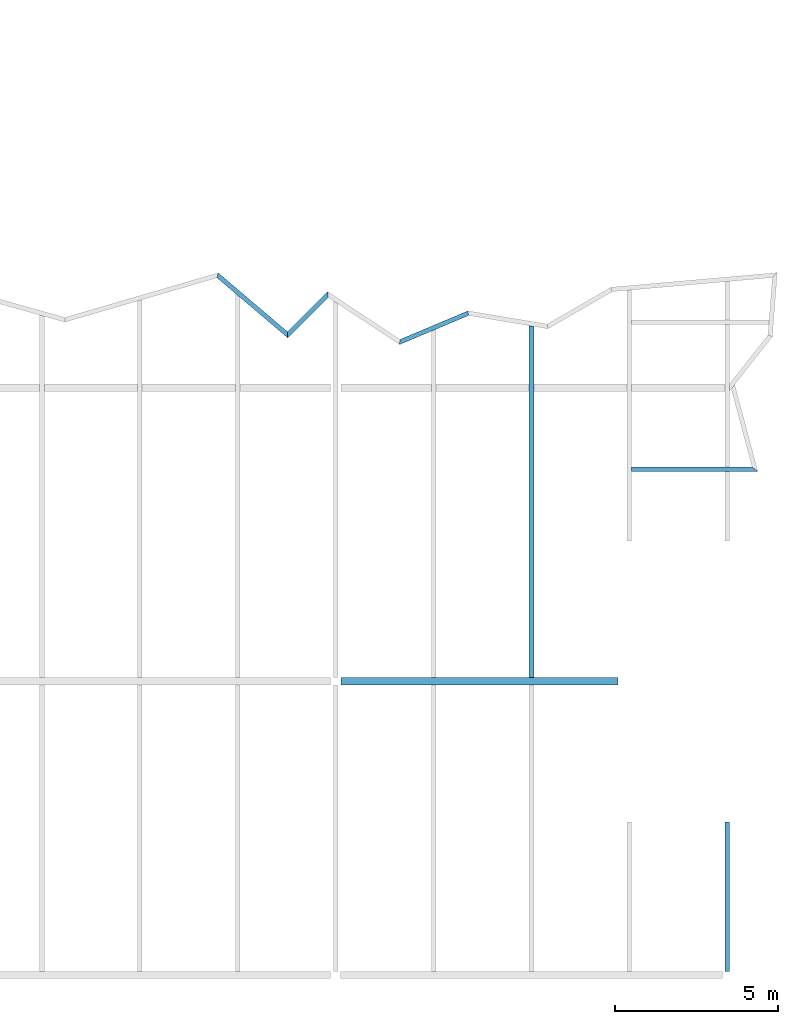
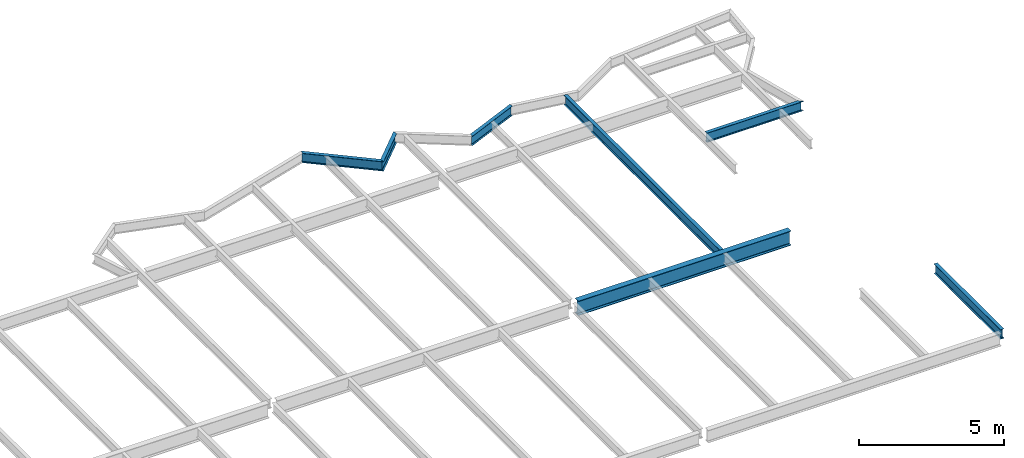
# One storey, part 19 of 21: 7 beams.
"""IFC2X3 building model written with IfcOpenShell, lengths in millimetres."""

from ifc_helpers import new_model, si_unit, origin, place, context, project, spatial, faceted_brep, material, element, save


model = new_model("IFC2X3")

# Units and contexts
context_of_model = context(None, 3, precision=1e-05, world=origin())
ifc_project = project(units=[si_unit("LENGTHUNIT", "METRE", prefix="MILLI")], contexts=[context_of_model])

# Building, storey
building = spatial("IfcBuilding", under=ifc_project, Name="Building", CompositionType="ELEMENT")
storey = spatial("IfcBuildingStorey", under=building, Name="FL3-FRM", CompositionType="ELEMENT")

# Beams
ifc_material_1 = material(Name="A992")
beam_1_placement = place(None, origin())
element("IfcBeam", 1, at=beam_1_placement, inside=storey, material=ifc_material_1, Name="Column484", context=context_of_model, shape_type="Brep", body=[
    faceted_brep([(72166.5, 17885.5, 8261.0), (72166.5, 18114.5, 8261.0), (80650.0, 18114.5, 8261.0), (80650.0, 17885.5, 8261.0), (72166.5, 18114.5, 8280.6), (80650.0, 18114.5, 8280.6), (72166.5, 18018.6, 8280.6), (80650.0, 18018.6, 8280.6), (72166.5, 18015.4, 8281.03), (80650.0, 18015.4, 8281.03), (72166.5, 18012.3, 8282.3), (80650.0, 18012.3, 8282.3), (72166.5, 18009.7, 8284.32), (80650.0, 18009.7, 8284.32), (72166.5, 18007.7, 8286.95), (80650.0, 18007.7, 8286.95), (72166.5, 18006.4, 8290.01), (80650.0, 18006.4, 8290.01), (72166.5, 18005.9, 8293.3), (80650.0, 18005.9, 8293.3), (72166.5, 18005.9, 8840.7), (80650.0, 18005.9, 8840.7), (72166.5, 18006.4, 8843.99), (80650.0, 18006.4, 8843.99), (72166.5, 18007.7, 8847.05), (80650.0, 18007.7, 8847.05), (72166.5, 18009.7, 8849.68), (80650.0, 18009.7, 8849.68), (72166.5, 18012.3, 8851.7), (80650.0, 18012.3, 8851.7), (72166.5, 18015.4, 8852.97), (80650.0, 18015.4, 8852.97), (72166.5, 18018.6, 8853.4), (80650.0, 18018.6, 8853.4), (72166.5, 18114.5, 8853.4), (80650.0, 18114.5, 8853.4), (72166.5, 18114.5, 8873.0), (80650.0, 18114.5, 8873.0), (72166.5, 17885.5, 8873.0), (80650.0, 17885.5, 8873.0), (72166.5, 17885.5, 8853.4), (80650.0, 17885.5, 8853.4), (72166.5, 17981.4, 8853.4), (80650.0, 17981.4, 8853.4), (72166.5, 17984.6, 8852.97), (80650.0, 17984.6, 8852.97), (72166.5, 17987.7, 8851.7), (80650.0, 17987.7, 8851.7), (72166.5, 17990.3, 8849.68), (80650.0, 17990.3, 8849.68), (72166.5, 17992.3, 8847.05), (80650.0, 17992.3, 8847.05), (72166.5, 17993.6, 8843.99), (80650.0, 17993.6, 8843.99), (72166.5, 17994.1, 8840.7), (80650.0, 17994.1, 8840.7), (72166.5, 17994.1, 8293.3), (80650.0, 17994.1, 8293.3), (72166.5, 17993.6, 8290.01), (80650.0, 17993.6, 8290.01), (72166.5, 17992.3, 8286.95), (80650.0, 17992.3, 8286.95), (72166.5, 17990.3, 8284.32), (80650.0, 17990.3, 8284.32), (72166.5, 17987.7, 8282.3), (80650.0, 17987.7, 8282.3), (72166.5, 17984.6, 8281.03), (80650.0, 17984.6, 8281.03), (72166.5, 17981.4, 8280.6), (80650.0, 17981.4, 8280.6), (72166.5, 17885.5, 8280.6), (80650.0, 17885.5, 8280.6)], [[[0, 1, 2, 3]], [[1, 4, 5, 2]], [[4, 6, 7, 5]], [[6, 8, 9, 7]], [[8, 10, 11, 9]], [[10, 12, 13, 11]], [[12, 14, 15, 13]], [[14, 16, 17, 15]], [[16, 18, 19, 17]], [[18, 20, 21, 19]], [[20, 22, 23, 21]], [[22, 24, 25, 23]], [[24, 26, 27, 25]], [[26, 28, 29, 27]], [[28, 30, 31, 29]], [[30, 32, 33, 31]], [[32, 34, 35, 33]], [[34, 36, 37, 35]], [[36, 38, 39, 37]], [[38, 40, 41, 39]], [[40, 42, 43, 41]], [[42, 44, 45, 43]], [[44, 46, 47, 45]], [[46, 48, 49, 47]], [[48, 50, 51, 49]], [[50, 52, 53, 51]], [[52, 54, 55, 53]], [[54, 56, 57, 55]], [[56, 58, 59, 57]], [[58, 60, 61, 59]], [[60, 62, 63, 61]], [[62, 64, 65, 63]], [[64, 66, 67, 65]], [[66, 68, 69, 67]], [[68, 70, 71, 69]], [[70, 0, 3, 71]], [[0, 70, 68, 66, 64, 62, 60, 58, 56, 54, 52, 50, 48, 46, 44, 42, 40, 38, 36, 34, 32, 30, 28, 26, 24, 22, 20, 18, 16, 14, 12, 10, 8, 6, 4, 1]], [[3, 2, 5, 7, 9, 11, 13, 15, 17, 19, 21, 23, 25, 27, 29, 31, 33, 35, 37, 39, 41, 43, 45, 47, 49, 51, 53, 55, 57, 59, 61, 63, 65, 67, 69, 71]]]),
])
ifc_material_2 = material(Name="A992")
beam_2_placement = place(None, origin())
element("IfcBeam", 2, at=beam_2_placement, inside=storey, material=ifc_material_2, Name="B1038", context=context_of_model, shape_type="Brep", body=[
    faceted_brep([(81070.0, 24430.0, 8474.0), (81070.0, 24570.0, 8474.0), (84758.1, 24570.0, 8474.0), (84940.3, 24430.0, 8474.0), (81070.0, 24570.0, 8482.8), (84758.1, 24570.0, 8482.8), (81070.0, 24513.4, 8482.8), (84831.8, 24513.4, 8482.8), (81070.0, 24511.8, 8482.93), (84833.8, 24511.8, 8482.9), (81070.0, 24510.2, 8483.3), (84835.8, 24510.3, 8483.28), (81070.0, 24508.8, 8483.91), (84837.7, 24508.8, 8483.9), (81070.0, 24507.4, 8484.75), (84839.5, 24507.5, 8484.69), (81070.0, 24506.2, 8485.79), (84841.1, 24506.2, 8485.79), (81070.0, 24505.1, 8487.0), (84842.4, 24505.2, 8486.94), (81070.0, 24504.3, 8488.37), (84843.6, 24504.3, 8488.3), (81070.0, 24503.7, 8489.85), (84844.3, 24503.7, 8489.82), (81070.0, 24503.3, 8491.4), (84844.8, 24503.4, 8491.37), (81070.0, 24503.2, 8493.0), (84845.0, 24503.2, 8493.0), (81070.0, 24503.2, 8854.0), (84845.0, 24503.2, 8854.0), (81070.0, 24503.3, 8855.6), (84844.8, 24503.4, 8855.63), (81070.0, 24503.7, 8857.15), (84844.3, 24503.7, 8857.18), (81070.0, 24504.3, 8858.63), (84843.6, 24504.3, 8858.7), (81070.0, 24505.1, 8860.0), (84842.4, 24505.2, 8860.06), (81070.0, 24506.2, 8861.21), (84841.1, 24506.2, 8861.21), (81070.0, 24507.4, 8862.25), (84839.5, 24507.5, 8862.31), (81070.0, 24508.8, 8863.09), (84837.7, 24508.8, 8863.1), (81070.0, 24510.2, 8863.7), (84835.8, 24510.3, 8863.72), (81070.0, 24511.8, 8864.07), (84833.8, 24511.8, 8864.1), (81070.0, 24513.4, 8864.2), (84831.8, 24513.4, 8864.2), (81070.0, 24570.0, 8864.2), (84758.1, 24570.0, 8864.2), (81070.0, 24570.0, 8873.0), (84758.1, 24570.0, 8873.0), (81070.0, 24430.0, 8873.0), (84940.3, 24430.0, 8873.0), (81070.0, 24430.0, 8864.2), (84940.3, 24430.0, 8864.2), (81070.0, 24486.6, 8864.2), (84866.6, 24486.6, 8864.2), (81070.0, 24488.2, 8864.07), (84864.6, 24488.2, 8864.1), (81070.0, 24489.8, 8863.7), (84862.6, 24489.7, 8863.72), (81070.0, 24491.2, 8863.09), (84860.7, 24491.2, 8863.1), (81070.0, 24492.6, 8862.25), (84858.9, 24492.5, 8862.31), (81070.0, 24493.8, 8861.21), (84857.2, 24493.8, 8861.21), (81070.0, 24494.9, 8860.0), (84856.0, 24494.8, 8860.06), (81070.0, 24495.7, 8858.63), (84854.8, 24495.7, 8858.7), (81070.0, 24496.3, 8857.15), (84854.1, 24496.3, 8857.18), (81070.0, 24496.7, 8855.6), (84853.6, 24496.6, 8855.63), (81070.0, 24496.8, 8854.0), (84853.4, 24496.8, 8854.0), (81070.0, 24496.8, 8493.0), (84853.4, 24496.8, 8493.0), (81070.0, 24496.7, 8491.4), (84853.6, 24496.6, 8491.37), (81070.0, 24496.3, 8489.85), (84854.1, 24496.3, 8489.82), (81070.0, 24495.7, 8488.37), (84854.8, 24495.7, 8488.3), (81070.0, 24494.9, 8487.0), (84856.0, 24494.8, 8486.94), (81070.0, 24493.8, 8485.79), (84857.2, 24493.8, 8485.79), (81070.0, 24492.6, 8484.75), (84858.9, 24492.5, 8484.69), (81070.0, 24491.2, 8483.91), (84860.7, 24491.2, 8483.9), (81070.0, 24489.8, 8483.3), (84862.6, 24489.7, 8483.28), (81070.0, 24488.2, 8482.93), (84864.6, 24488.2, 8482.9), (81070.0, 24486.6, 8482.8), (84866.6, 24486.6, 8482.8), (81070.0, 24430.0, 8482.8), (84940.3, 24430.0, 8482.8)], [[[0, 1, 2, 3]], [[1, 4, 5, 2]], [[4, 6, 7, 5]], [[6, 8, 9, 7]], [[8, 10, 11, 9]], [[10, 12, 13, 11]], [[12, 14, 15, 13]], [[14, 16, 17, 15]], [[16, 18, 19, 17]], [[18, 20, 21, 19]], [[20, 22, 23, 21]], [[22, 24, 25, 23]], [[24, 26, 27, 25]], [[26, 28, 29, 27]], [[28, 30, 31, 29]], [[30, 32, 33, 31]], [[32, 34, 35, 33]], [[34, 36, 37, 35]], [[36, 38, 39, 37]], [[38, 40, 41, 39]], [[40, 42, 43, 41]], [[42, 44, 45, 43]], [[44, 46, 47, 45]], [[46, 48, 49, 47]], [[48, 50, 51, 49]], [[50, 52, 53, 51]], [[52, 54, 55, 53]], [[54, 56, 57, 55]], [[56, 58, 59, 57]], [[58, 60, 61, 59]], [[60, 62, 63, 61]], [[62, 64, 65, 63]], [[64, 66, 67, 65]], [[66, 68, 69, 67]], [[68, 70, 71, 69]], [[70, 72, 73, 71]], [[72, 74, 75, 73]], [[74, 76, 77, 75]], [[76, 78, 79, 77]], [[78, 80, 81, 79]], [[80, 82, 83, 81]], [[82, 84, 85, 83]], [[84, 86, 87, 85]], [[86, 88, 89, 87]], [[88, 90, 91, 89]], [[90, 92, 93, 91]], [[92, 94, 95, 93]], [[94, 96, 97, 95]], [[96, 98, 99, 97]], [[98, 100, 101, 99]], [[100, 102, 103, 101]], [[102, 0, 3, 103]], [[0, 102, 100, 98, 96, 94, 92, 90, 88, 86, 84, 82, 80, 78, 76, 74, 72, 70, 68, 66, 64, 62, 60, 58, 56, 54, 52, 50, 48, 46, 44, 42, 40, 38, 36, 34, 32, 30, 28, 26, 24, 22, 20, 18, 16, 14, 12, 10, 8, 6, 4, 1]], [[3, 2, 5, 7, 9, 11, 13, 15, 17, 19, 21, 23, 25, 27, 29, 31, 33, 35, 37, 39, 41, 43, 45, 47, 49, 51, 53, 55, 57, 59, 61, 63, 65, 67, 69, 71, 73, 75, 77, 79, 81, 83, 85, 87, 89, 91, 93, 95, 97, 99, 101, 103]]]),
])
ifc_material_3 = material(Name="A992")
beam_3_placement = place(None, origin())
element("IfcBeam", 3, at=beam_3_placement, inside=storey, material=ifc_material_3, Name="B1046", context=context_of_model, shape_type="Brep", body=[
    faceted_brep([(77930.0, 28900.5, 8474.0), (78070.0, 28877.1, 8474.0), (78070.0, 18114.5, 8474.0), (77930.0, 18114.5, 8474.0), (78070.0, 28877.1, 8482.8), (78070.0, 18114.5, 8482.8), (78013.4, 28886.6, 8482.8), (78013.4, 18114.5, 8482.8), (78011.9, 28886.8, 8482.9), (78011.9, 18114.5, 8482.9), (78010.5, 28887.0, 8483.21), (78010.5, 18114.5, 8483.21), (78009.2, 28887.3, 8483.72), (78009.2, 18114.5, 8483.72), (78007.9, 28887.5, 8484.42), (78007.9, 18114.5, 8484.42), (78006.7, 28887.7, 8485.29), (78006.7, 18114.5, 8485.29), (78005.7, 28887.9, 8486.32), (78005.7, 18114.5, 8486.32), (78004.8, 28888.0, 8487.48), (78004.8, 18114.5, 8487.49), (78004.1, 28888.1, 8488.76), (78004.1, 18114.5, 8488.76), (78003.6, 28888.2, 8490.13), (78003.6, 18114.5, 8490.13), (78003.3, 28888.3, 8491.55), (78003.3, 18114.5, 8491.55), (78003.2, 28888.3, 8493.0), (78003.2, 18114.5, 8493.0), (78003.2, 28888.3, 8854.0), (78003.2, 18114.5, 8854.0), (78003.3, 28888.3, 8855.45), (78003.3, 18114.5, 8855.45), (78003.6, 28888.2, 8856.87), (78003.6, 18114.5, 8856.87), (78004.1, 28888.1, 8858.24), (78004.1, 18114.5, 8858.24), (78004.8, 28888.0, 8859.52), (78004.8, 18114.5, 8859.51), (78005.7, 28887.9, 8860.68), (78005.7, 18114.5, 8860.68), (78006.7, 28887.7, 8861.71), (78006.7, 18114.5, 8861.71), (78007.9, 28887.5, 8862.58), (78007.9, 18114.5, 8862.58), (78009.2, 28887.3, 8863.28), (78009.2, 18114.5, 8863.28), (78010.5, 28887.0, 8863.79), (78010.5, 18114.5, 8863.79), (78011.9, 28886.8, 8864.1), (78011.9, 18114.5, 8864.1), (78013.4, 28886.6, 8864.2), (78013.4, 18114.5, 8864.2), (78070.0, 28877.1, 8864.2), (78070.0, 18114.5, 8864.2), (78070.0, 28877.1, 8873.0), (78070.0, 18114.5, 8873.0), (77930.0, 28900.5, 8873.0), (77930.0, 18114.5, 8873.0), (77930.0, 28900.5, 8864.2), (77930.0, 18114.5, 8864.2), (77986.6, 28891.0, 8864.2), (77986.6, 18114.5, 8864.2), (77988.1, 28890.8, 8864.1), (77988.1, 18114.5, 8864.1), (77989.5, 28890.6, 8863.79), (77989.5, 18114.5, 8863.79), (77990.8, 28890.3, 8863.28), (77990.8, 18114.5, 8863.28), (77992.1, 28890.1, 8862.58), (77992.1, 18114.5, 8862.58), (77993.3, 28889.9, 8861.71), (77993.3, 18114.5, 8861.71), (77994.3, 28889.8, 8860.68), (77994.3, 18114.5, 8860.68), (77995.2, 28889.6, 8859.52), (77995.2, 18114.5, 8859.51), (77995.9, 28889.5, 8858.24), (77995.9, 18114.5, 8858.24), (77996.4, 28889.4, 8856.87), (77996.4, 18114.5, 8856.87), (77996.7, 28889.4, 8855.45), (77996.7, 18114.5, 8855.45), (77996.8, 28889.3, 8854.0), (77996.8, 18114.5, 8854.0), (77996.8, 28889.3, 8493.0), (77996.8, 18114.5, 8493.0), (77996.7, 28889.4, 8491.55), (77996.7, 18114.5, 8491.55), (77996.4, 28889.4, 8490.13), (77996.4, 18114.5, 8490.13), (77995.9, 28889.5, 8488.76), (77995.9, 18114.5, 8488.76), (77995.2, 28889.6, 8487.48), (77995.2, 18114.5, 8487.49), (77994.3, 28889.8, 8486.32), (77994.3, 18114.5, 8486.32), (77993.3, 28889.9, 8485.29), (77993.3, 18114.5, 8485.29), (77992.1, 28890.1, 8484.42), (77992.1, 18114.5, 8484.42), (77990.8, 28890.3, 8483.72), (77990.8, 18114.5, 8483.72), (77989.5, 28890.6, 8483.21), (77989.5, 18114.5, 8483.21), (77988.1, 28890.8, 8482.9), (77988.1, 18114.5, 8482.9), (77986.6, 28891.0, 8482.8), (77986.6, 18114.5, 8482.8), (77930.0, 28900.5, 8482.8), (77930.0, 18114.5, 8482.8)], [[[0, 1, 2, 3]], [[1, 4, 5, 2]], [[4, 6, 7, 5]], [[6, 8, 9, 7]], [[8, 10, 11, 9]], [[10, 12, 13, 11]], [[12, 14, 15, 13]], [[14, 16, 17, 15]], [[16, 18, 19, 17]], [[18, 20, 21, 19]], [[20, 22, 23, 21]], [[22, 24, 25, 23]], [[24, 26, 27, 25]], [[26, 28, 29, 27]], [[28, 30, 31, 29]], [[30, 32, 33, 31]], [[32, 34, 35, 33]], [[34, 36, 37, 35]], [[36, 38, 39, 37]], [[38, 40, 41, 39]], [[40, 42, 43, 41]], [[42, 44, 45, 43]], [[44, 46, 47, 45]], [[46, 48, 49, 47]], [[48, 50, 51, 49]], [[50, 52, 53, 51]], [[52, 54, 55, 53]], [[54, 56, 57, 55]], [[56, 58, 59, 57]], [[58, 60, 61, 59]], [[60, 62, 63, 61]], [[62, 64, 65, 63]], [[64, 66, 67, 65]], [[66, 68, 69, 67]], [[68, 70, 71, 69]], [[70, 72, 73, 71]], [[72, 74, 75, 73]], [[74, 76, 77, 75]], [[76, 78, 79, 77]], [[78, 80, 81, 79]], [[80, 82, 83, 81]], [[82, 84, 85, 83]], [[84, 86, 87, 85]], [[86, 88, 89, 87]], [[88, 90, 91, 89]], [[90, 92, 93, 91]], [[92, 94, 95, 93]], [[94, 96, 97, 95]], [[96, 98, 99, 97]], [[98, 100, 101, 99]], [[100, 102, 103, 101]], [[102, 104, 105, 103]], [[104, 106, 107, 105]], [[106, 108, 109, 107]], [[108, 110, 111, 109]], [[110, 0, 3, 111]], [[0, 110, 108, 106, 104, 102, 100, 98, 96, 94, 92, 90, 88, 86, 84, 82, 80, 78, 76, 74, 72, 70, 68, 66, 64, 62, 60, 58, 56, 54, 52, 50, 48, 46, 44, 42, 40, 38, 36, 34, 32, 30, 28, 26, 24, 22, 20, 18, 16, 14, 12, 10, 8, 6, 4, 1]], [[3, 2, 5, 7, 9, 11, 13, 15, 17, 19, 21, 23, 25, 27, 29, 31, 33, 35, 37, 39, 41, 43, 45, 47, 49, 51, 53, 55, 57, 59, 61, 63, 65, 67, 69, 71, 73, 75, 77, 79, 81, 83, 85, 87, 89, 91, 93, 95, 97, 99, 101, 103, 105, 107, 109, 111]]]),
])
ifc_material_4 = material(Name="A992")
beam_4_placement = place(None, origin())
element("IfcBeam", 4, at=beam_4_placement, inside=storey, material=ifc_material_4, Name="B1048", context=context_of_model, shape_type="Brep", body=[
    faceted_brep([(73955.0, 28320.5, 8474.0), (73969.9, 28478.7, 8474.0), (76052.1, 29355.4, 8474.0), (76069.1, 29210.6, 8474.0), (73969.9, 28478.7, 8482.8), (76052.1, 29355.4, 8482.8), (73963.9, 28414.7, 8482.8), (76059.0, 29296.9, 8482.8), (73963.7, 28413.1, 8482.9), (76059.2, 29295.4, 8482.9), (73963.6, 28411.5, 8483.21), (76059.3, 29293.9, 8483.21), (73963.4, 28409.9, 8483.72), (76059.5, 29292.5, 8483.72), (73963.3, 28408.5, 8484.41), (76059.6, 29291.2, 8484.42), (73963.2, 28407.2, 8485.28), (76059.8, 29290.0, 8485.29), (73963.1, 28406.0, 8486.31), (76059.9, 29288.9, 8486.32), (73963.0, 28405.0, 8487.47), (76060.0, 29288.0, 8487.48), (73962.9, 28404.2, 8488.76), (76060.1, 29287.3, 8488.76), (73962.9, 28403.7, 8490.12), (76060.2, 29286.7, 8490.12), (73962.8, 28403.3, 8491.54), (76060.2, 29286.4, 8491.55), (73962.8, 28403.2, 8493.0), (76060.2, 29286.3, 8493.0), (73962.8, 28403.2, 8854.0), (76060.2, 29286.3, 8854.0), (73962.8, 28403.3, 8855.46), (76060.2, 29286.4, 8855.45), (73962.9, 28403.7, 8856.88), (76060.2, 29286.7, 8856.88), (73962.9, 28404.2, 8858.24), (76060.1, 29287.3, 8858.24), (73963.0, 28405.0, 8859.53), (76060.0, 29288.0, 8859.52), (73963.1, 28406.0, 8860.69), (76059.9, 29288.9, 8860.68), (73963.2, 28407.2, 8861.72), (76059.8, 29290.0, 8861.71), (73963.3, 28408.5, 8862.59), (76059.6, 29291.2, 8862.58), (73963.4, 28409.9, 8863.28), (76059.5, 29292.5, 8863.28), (73963.6, 28411.5, 8863.79), (76059.3, 29293.9, 8863.79), (73963.7, 28413.1, 8864.1), (76059.2, 29295.4, 8864.1), (73963.9, 28414.7, 8864.2), (76059.0, 29296.9, 8864.2), (73969.9, 28478.7, 8864.2), (76052.1, 29355.4, 8864.2), (73969.9, 28478.7, 8873.0), (76052.1, 29355.4, 8873.0), (73955.0, 28320.5, 8873.0), (76069.1, 29210.6, 8873.0), (73955.0, 28320.5, 8864.2), (76069.1, 29210.6, 8864.2), (73961.0, 28384.4, 8864.2), (76062.2, 29269.1, 8864.2), (73961.2, 28386.1, 8864.1), (76062.1, 29270.6, 8864.1), (73961.4, 28387.7, 8863.79), (76061.9, 29272.1, 8863.79), (73961.5, 28389.2, 8863.28), (76061.7, 29273.5, 8863.28), (73961.6, 28390.7, 8862.59), (76061.6, 29274.8, 8862.58), (73961.8, 28392.0, 8861.72), (76061.4, 29276.1, 8861.71), (73961.9, 28393.1, 8860.69), (76061.3, 29277.1, 8860.68), (73962.0, 28394.1, 8859.53), (76061.2, 29278.0, 8859.52), (73962.0, 28394.9, 8858.24), (76061.1, 29278.7, 8858.24), (73962.1, 28395.5, 8856.88), (76061.0, 29279.3, 8856.88), (73962.1, 28395.8, 8855.46), (76061.0, 29279.6, 8855.45), (73962.1, 28396.0, 8854.0), (76061.0, 29279.7, 8854.0), (73962.1, 28396.0, 8493.0), (76061.0, 29279.7, 8493.0), (73962.1, 28395.8, 8491.54), (76061.0, 29279.6, 8491.55), (73962.1, 28395.5, 8490.12), (76061.0, 29279.3, 8490.12), (73962.0, 28394.9, 8488.76), (76061.1, 29278.7, 8488.76), (73962.0, 28394.1, 8487.47), (76061.2, 29278.0, 8487.48), (73961.9, 28393.1, 8486.31), (76061.3, 29277.1, 8486.32), (73961.8, 28392.0, 8485.28), (76061.4, 29276.1, 8485.29), (73961.6, 28390.7, 8484.41), (76061.6, 29274.8, 8484.42), (73961.5, 28389.2, 8483.72), (76061.7, 29273.5, 8483.72), (73961.4, 28387.7, 8483.21), (76061.9, 29272.1, 8483.21), (73961.2, 28386.1, 8482.9), (76062.1, 29270.6, 8482.9), (73961.0, 28384.4, 8482.8), (76062.2, 29269.1, 8482.8), (73955.0, 28320.5, 8482.8), (76069.1, 29210.6, 8482.8)], [[[0, 1, 2, 3]], [[1, 4, 5, 2]], [[4, 6, 7, 5]], [[6, 8, 9, 7]], [[8, 10, 11, 9]], [[10, 12, 13, 11]], [[12, 14, 15, 13]], [[14, 16, 17, 15]], [[16, 18, 19, 17]], [[18, 20, 21, 19]], [[20, 22, 23, 21]], [[22, 24, 25, 23]], [[24, 26, 27, 25]], [[26, 28, 29, 27]], [[28, 30, 31, 29]], [[30, 32, 33, 31]], [[32, 34, 35, 33]], [[34, 36, 37, 35]], [[36, 38, 39, 37]], [[38, 40, 41, 39]], [[40, 42, 43, 41]], [[42, 44, 45, 43]], [[44, 46, 47, 45]], [[46, 48, 49, 47]], [[48, 50, 51, 49]], [[50, 52, 53, 51]], [[52, 54, 55, 53]], [[54, 56, 57, 55]], [[56, 58, 59, 57]], [[58, 60, 61, 59]], [[60, 62, 63, 61]], [[62, 64, 65, 63]], [[64, 66, 67, 65]], [[66, 68, 69, 67]], [[68, 70, 71, 69]], [[70, 72, 73, 71]], [[72, 74, 75, 73]], [[74, 76, 77, 75]], [[76, 78, 79, 77]], [[78, 80, 81, 79]], [[80, 82, 83, 81]], [[82, 84, 85, 83]], [[84, 86, 87, 85]], [[86, 88, 89, 87]], [[88, 90, 91, 89]], [[90, 92, 93, 91]], [[92, 94, 95, 93]], [[94, 96, 97, 95]], [[96, 98, 99, 97]], [[98, 100, 101, 99]], [[100, 102, 103, 101]], [[102, 104, 105, 103]], [[104, 106, 107, 105]], [[106, 108, 109, 107]], [[108, 110, 111, 109]], [[110, 0, 3, 111]], [[0, 110, 108, 106, 104, 102, 100, 98, 96, 94, 92, 90, 88, 86, 84, 82, 80, 78, 76, 74, 72, 70, 68, 66, 64, 62, 60, 58, 56, 54, 52, 50, 48, 46, 44, 42, 40, 38, 36, 34, 32, 30, 28, 26, 24, 22, 20, 18, 16, 14, 12, 10, 8, 6, 4, 1]], [[3, 2, 5, 7, 9, 11, 13, 15, 17, 19, 21, 23, 25, 27, 29, 31, 33, 35, 37, 39, 41, 43, 45, 47, 49, 51, 53, 55, 57, 59, 61, 63, 65, 67, 69, 71, 73, 75, 77, 79, 81, 83, 85, 87, 89, 91, 93, 95, 97, 99, 101, 103, 105, 107, 109, 111]]]),
])
ifc_material_5 = material(Name="A992")
beam_5_placement = place(None, origin())
element("IfcBeam", 5, at=beam_5_placement, inside=storey, material=ifc_material_5, Name="B1051", context=context_of_model, shape_type="Brep", body=[
    faceted_brep([(70531.4, 28525.3, 8474.0), (70523.7, 28715.5, 8474.0), (71755.4, 29947.3, 8474.0), (71773.4, 29767.3, 8474.0), (70523.7, 28715.5, 8482.8), (71755.4, 29947.3, 8482.8), (70526.8, 28638.6, 8482.8), (71762.7, 29874.5, 8482.8), (70526.9, 28636.5, 8482.91), (71762.9, 29872.5, 8482.91), (70526.9, 28634.3, 8483.29), (71763.1, 29870.5, 8483.29), (70527.0, 28632.4, 8483.9), (71763.3, 29868.6, 8483.9), (70527.1, 28630.5, 8484.71), (71763.5, 29866.9, 8484.72), (70527.2, 28628.8, 8485.79), (71763.6, 29865.3, 8485.79), (70527.2, 28627.4, 8486.97), (71763.8, 29864.0, 8486.97), (70527.3, 28626.3, 8488.33), (71763.9, 29862.9, 8488.34), (70527.3, 28625.5, 8489.83), (71763.9, 29862.1, 8489.84), (70527.3, 28625.0, 8491.38), (71764.0, 29861.6, 8491.39), (70527.3, 28624.7, 8493.0), (71764.0, 29861.4, 8493.0), (70527.3, 28624.7, 8854.0), (71764.0, 29861.4, 8854.0), (70527.3, 28625.0, 8855.62), (71764.0, 29861.6, 8855.61), (70527.3, 28625.5, 8857.17), (71763.9, 29862.1, 8857.16), (70527.3, 28626.3, 8858.67), (71763.9, 29862.9, 8858.66), (70527.2, 28627.4, 8860.03), (71763.8, 29864.0, 8860.03), (70527.2, 28628.8, 8861.21), (71763.6, 29865.3, 8861.21), (70527.1, 28630.5, 8862.29), (71763.5, 29866.9, 8862.28), (70527.0, 28632.4, 8863.1), (71763.3, 29868.6, 8863.1), (70526.9, 28634.3, 8863.71), (71763.1, 29870.5, 8863.71), (70526.9, 28636.5, 8864.09), (71762.9, 29872.5, 8864.09), (70526.8, 28638.6, 8864.2), (71762.7, 29874.5, 8864.2), (70523.7, 28715.5, 8864.2), (71755.4, 29947.3, 8864.2), (70523.7, 28715.5, 8873.0), (71755.4, 29947.3, 8873.0), (70531.4, 28525.3, 8873.0), (71773.4, 29767.3, 8873.0), (70531.4, 28525.3, 8864.2), (71773.4, 29767.3, 8864.2), (70528.2, 28602.2, 8864.2), (71766.1, 29840.1, 8864.2), (70528.2, 28604.3, 8864.09), (71765.9, 29842.1, 8864.09), (70528.1, 28606.5, 8863.71), (71765.7, 29844.1, 8863.71), (70528.0, 28608.4, 8863.1), (71765.6, 29846.0, 8863.1), (70527.9, 28610.3, 8862.29), (71765.4, 29847.8, 8862.28), (70527.8, 28612.0, 8861.21), (71765.2, 29849.4, 8861.21), (70527.8, 28613.4, 8860.03), (71765.1, 29850.7, 8860.03), (70527.7, 28614.5, 8858.67), (71765.0, 29851.8, 8858.66), (70527.7, 28615.3, 8857.17), (71764.9, 29852.5, 8857.16), (70527.7, 28615.8, 8855.62), (71764.9, 29853.0, 8855.61), (70527.7, 28616.1, 8854.0), (71764.8, 29853.2, 8854.0), (70527.7, 28616.1, 8493.0), (71764.8, 29853.2, 8493.0), (70527.7, 28615.8, 8491.38), (71764.9, 29853.0, 8491.39), (70527.7, 28615.3, 8489.83), (71764.9, 29852.5, 8489.84), (70527.7, 28614.5, 8488.33), (71765.0, 29851.8, 8488.34), (70527.8, 28613.4, 8486.97), (71765.1, 29850.7, 8486.97), (70527.8, 28612.0, 8485.79), (71765.2, 29849.4, 8485.79), (70527.9, 28610.3, 8484.71), (71765.4, 29847.8, 8484.72), (70528.0, 28608.4, 8483.9), (71765.6, 29846.0, 8483.9), (70528.1, 28606.5, 8483.29), (71765.7, 29844.1, 8483.29), (70528.2, 28604.3, 8482.91), (71765.9, 29842.1, 8482.91), (70528.2, 28602.2, 8482.8), (71766.1, 29840.1, 8482.8), (70531.4, 28525.3, 8482.8), (71773.4, 29767.3, 8482.8)], [[[0, 1, 2, 3]], [[1, 4, 5, 2]], [[4, 6, 7, 5]], [[6, 8, 9, 7]], [[8, 10, 11, 9]], [[10, 12, 13, 11]], [[12, 14, 15, 13]], [[14, 16, 17, 15]], [[16, 18, 19, 17]], [[18, 20, 21, 19]], [[20, 22, 23, 21]], [[22, 24, 25, 23]], [[24, 26, 27, 25]], [[26, 28, 29, 27]], [[28, 30, 31, 29]], [[30, 32, 33, 31]], [[32, 34, 35, 33]], [[34, 36, 37, 35]], [[36, 38, 39, 37]], [[38, 40, 41, 39]], [[40, 42, 43, 41]], [[42, 44, 45, 43]], [[44, 46, 47, 45]], [[46, 48, 49, 47]], [[48, 50, 51, 49]], [[50, 52, 53, 51]], [[52, 54, 55, 53]], [[54, 56, 57, 55]], [[56, 58, 59, 57]], [[58, 60, 61, 59]], [[60, 62, 63, 61]], [[62, 64, 65, 63]], [[64, 66, 67, 65]], [[66, 68, 69, 67]], [[68, 70, 71, 69]], [[70, 72, 73, 71]], [[72, 74, 75, 73]], [[74, 76, 77, 75]], [[76, 78, 79, 77]], [[78, 80, 81, 79]], [[80, 82, 83, 81]], [[82, 84, 85, 83]], [[84, 86, 87, 85]], [[86, 88, 89, 87]], [[88, 90, 91, 89]], [[90, 92, 93, 91]], [[92, 94, 95, 93]], [[94, 96, 97, 95]], [[96, 98, 99, 97]], [[98, 100, 101, 99]], [[100, 102, 103, 101]], [[102, 0, 3, 103]], [[0, 102, 100, 98, 96, 94, 92, 90, 88, 86, 84, 82, 80, 78, 76, 74, 72, 70, 68, 66, 64, 62, 60, 58, 56, 54, 52, 50, 48, 46, 44, 42, 40, 38, 36, 34, 32, 30, 28, 26, 24, 22, 20, 18, 16, 14, 12, 10, 8, 6, 4, 1]], [[3, 2, 5, 7, 9, 11, 13, 15, 17, 19, 21, 23, 25, 27, 29, 31, 33, 35, 37, 39, 41, 43, 45, 47, 49, 51, 53, 55, 57, 59, 61, 63, 65, 67, 69, 71, 73, 75, 77, 79, 81, 83, 85, 87, 89, 91, 93, 95, 97, 99, 101, 103]]]),
])
ifc_material_6 = material(Name="A992")
beam_6_placement = place(None, origin())
element("IfcBeam", 6, at=beam_6_placement, inside=storey, material=ifc_material_6, Name="B1052", context=context_of_model, shape_type="Brep", body=[
    faceted_brep([(68364.8, 30366.8, 8474.0), (68398.0, 30522.3, 8474.0), (70523.7, 28715.5, 8474.0), (70531.4, 28525.3, 8474.0), (68398.0, 30522.3, 8482.8), (70523.7, 28715.5, 8482.8), (68384.6, 30459.5, 8482.8), (70526.8, 28638.6, 8482.8), (68384.2, 30457.7, 8482.92), (70526.9, 28636.5, 8482.91), (68383.8, 30456.0, 8483.29), (70526.9, 28634.3, 8483.29), (68383.5, 30454.3, 8483.91), (70527.0, 28632.4, 8483.9), (68383.2, 30452.8, 8484.73), (70527.1, 28630.5, 8484.71), (68382.9, 30451.5, 8485.79), (70527.2, 28628.8, 8485.79), (68382.6, 30450.3, 8486.99), (70527.2, 28627.4, 8486.97), (68382.4, 30449.4, 8488.36), (70527.3, 28626.3, 8488.33), (68382.3, 30448.7, 8489.84), (70527.3, 28625.5, 8489.83), (68382.2, 30448.3, 8491.4), (70527.3, 28625.0, 8491.38), (68382.2, 30448.1, 8493.0), (70527.3, 28624.7, 8493.0), (68382.2, 30448.1, 8854.0), (70527.3, 28624.7, 8854.0), (68382.2, 30448.3, 8855.6), (70527.3, 28625.0, 8855.62), (68382.3, 30448.7, 8857.16), (70527.3, 28625.5, 8857.17), (68382.4, 30449.4, 8858.64), (70527.3, 28626.3, 8858.67), (68382.6, 30450.3, 8860.01), (70527.2, 28627.4, 8860.03), (68382.9, 30451.5, 8861.21), (70527.2, 28628.8, 8861.21), (68383.2, 30452.8, 8862.27), (70527.1, 28630.5, 8862.29), (68383.5, 30454.3, 8863.09), (70527.0, 28632.4, 8863.1), (68383.8, 30456.0, 8863.71), (70526.9, 28634.3, 8863.71), (68384.2, 30457.7, 8864.08), (70526.9, 28636.5, 8864.09), (68384.6, 30459.5, 8864.2), (70526.8, 28638.6, 8864.2), (68398.0, 30522.3, 8864.2), (70523.7, 28715.5, 8864.2), (68398.0, 30522.3, 8873.0), (70523.7, 28715.5, 8873.0), (68364.8, 30366.8, 8873.0), (70531.4, 28525.3, 8873.0), (68364.8, 30366.8, 8864.2), (70531.4, 28525.3, 8864.2), (68378.2, 30429.7, 8864.2), (70528.2, 28602.2, 8864.2), (68378.6, 30431.5, 8864.08), (70528.2, 28604.3, 8864.09), (68379.0, 30433.2, 8863.71), (70528.1, 28606.5, 8863.71), (68379.3, 30434.8, 8863.09), (70528.0, 28608.4, 8863.1), (68379.7, 30436.3, 8862.27), (70527.9, 28610.3, 8862.29), (68379.9, 30437.7, 8861.21), (70527.8, 28612.0, 8861.21), (68380.2, 30438.8, 8860.01), (70527.8, 28613.4, 8860.03), (68380.4, 30439.8, 8858.64), (70527.7, 28614.5, 8858.67), (68380.5, 30440.5, 8857.16), (70527.7, 28615.3, 8857.17), (68380.6, 30440.9, 8855.6), (70527.7, 28615.8, 8855.62), (68380.7, 30441.0, 8854.0), (70527.7, 28616.1, 8854.0), (68380.7, 30441.0, 8493.0), (70527.7, 28616.1, 8493.0), (68380.6, 30440.9, 8491.4), (70527.7, 28615.8, 8491.38), (68380.5, 30440.5, 8489.84), (70527.7, 28615.3, 8489.83), (68380.4, 30439.8, 8488.36), (70527.7, 28614.5, 8488.33), (68380.2, 30438.8, 8486.99), (70527.8, 28613.4, 8486.97), (68379.9, 30437.7, 8485.79), (70527.8, 28612.0, 8485.79), (68379.7, 30436.3, 8484.73), (70527.9, 28610.3, 8484.71), (68379.3, 30434.8, 8483.91), (70528.0, 28608.4, 8483.9), (68379.0, 30433.2, 8483.29), (70528.1, 28606.5, 8483.29), (68378.6, 30431.5, 8482.92), (70528.2, 28604.3, 8482.91), (68378.2, 30429.7, 8482.8), (70528.2, 28602.2, 8482.8), (68364.8, 30366.8, 8482.8), (70531.4, 28525.3, 8482.8)], [[[0, 1, 2, 3]], [[1, 4, 5, 2]], [[4, 6, 7, 5]], [[6, 8, 9, 7]], [[8, 10, 11, 9]], [[10, 12, 13, 11]], [[12, 14, 15, 13]], [[14, 16, 17, 15]], [[16, 18, 19, 17]], [[18, 20, 21, 19]], [[20, 22, 23, 21]], [[22, 24, 25, 23]], [[24, 26, 27, 25]], [[26, 28, 29, 27]], [[28, 30, 31, 29]], [[30, 32, 33, 31]], [[32, 34, 35, 33]], [[34, 36, 37, 35]], [[36, 38, 39, 37]], [[38, 40, 41, 39]], [[40, 42, 43, 41]], [[42, 44, 45, 43]], [[44, 46, 47, 45]], [[46, 48, 49, 47]], [[48, 50, 51, 49]], [[50, 52, 53, 51]], [[52, 54, 55, 53]], [[54, 56, 57, 55]], [[56, 58, 59, 57]], [[58, 60, 61, 59]], [[60, 62, 63, 61]], [[62, 64, 65, 63]], [[64, 66, 67, 65]], [[66, 68, 69, 67]], [[68, 70, 71, 69]], [[70, 72, 73, 71]], [[72, 74, 75, 73]], [[74, 76, 77, 75]], [[76, 78, 79, 77]], [[78, 80, 81, 79]], [[80, 82, 83, 81]], [[82, 84, 85, 83]], [[84, 86, 87, 85]], [[86, 88, 89, 87]], [[88, 90, 91, 89]], [[90, 92, 93, 91]], [[92, 94, 95, 93]], [[94, 96, 97, 95]], [[96, 98, 99, 97]], [[98, 100, 101, 99]], [[100, 102, 103, 101]], [[102, 0, 3, 103]], [[0, 102, 100, 98, 96, 94, 92, 90, 88, 86, 84, 82, 80, 78, 76, 74, 72, 70, 68, 66, 64, 62, 60, 58, 56, 54, 52, 50, 48, 46, 44, 42, 40, 38, 36, 34, 32, 30, 28, 26, 24, 22, 20, 18, 16, 14, 12, 10, 8, 6, 4, 1]], [[3, 2, 5, 7, 9, 11, 13, 15, 17, 19, 21, 23, 25, 27, 29, 31, 33, 35, 37, 39, 41, 43, 45, 47, 49, 51, 53, 55, 57, 59, 61, 63, 65, 67, 69, 71, 73, 75, 77, 79, 81, 83, 85, 87, 89, 91, 93, 95, 97, 99, 101, 103]]]),
])
ifc_material_7 = material(Name="A992")
beam_7_placement = place(None, origin())
element("IfcBeam", 7, at=beam_7_placement, inside=storey, material=ifc_material_7, Name="B1061", context=context_of_model, shape_type="Brep", body=[
    faceted_brep([(84070.0, 9104.5, 8474.0), (83930.0, 9104.5, 8474.0), (83930.0, 13700.0, 8474.0), (84070.0, 13700.0, 8474.0), (83930.0, 9104.5, 8482.8), (83930.0, 13700.0, 8482.8), (83986.6, 9104.5, 8482.8), (83986.6, 13700.0, 8482.8), (83989.2, 9104.5, 8483.15), (83989.2, 13700.0, 8483.15), (83991.7, 9104.5, 8484.17), (83991.7, 13700.0, 8484.17), (83993.8, 9104.5, 8485.79), (83993.8, 13700.0, 8485.79), (83995.4, 9104.5, 8487.9), (83995.4, 13700.0, 8487.9), (83996.5, 9104.5, 8490.36), (83996.5, 13700.0, 8490.36), (83996.8, 9104.5, 8493.0), (83996.8, 13700.0, 8493.0), (83996.8, 9104.5, 8854.0), (83996.8, 13700.0, 8854.0), (83996.5, 9104.5, 8856.64), (83996.5, 13700.0, 8856.64), (83995.4, 9104.5, 8859.1), (83995.4, 13700.0, 8859.1), (83993.8, 9104.5, 8861.21), (83993.8, 13700.0, 8861.21), (83991.7, 9104.5, 8862.83), (83991.7, 13700.0, 8862.83), (83989.2, 9104.5, 8863.85), (83989.2, 13700.0, 8863.85), (83986.6, 9104.5, 8864.2), (83986.6, 13700.0, 8864.2), (83930.0, 9104.5, 8864.2), (83930.0, 13700.0, 8864.2), (83930.0, 9104.5, 8873.0), (83930.0, 13700.0, 8873.0), (84070.0, 9104.5, 8873.0), (84070.0, 13700.0, 8873.0), (84070.0, 9104.5, 8864.2), (84070.0, 13700.0, 8864.2), (84013.4, 9104.5, 8864.2), (84013.4, 13700.0, 8864.2), (84010.8, 9104.5, 8863.85), (84010.8, 13700.0, 8863.85), (84008.3, 9104.5, 8862.83), (84008.3, 13700.0, 8862.83), (84006.2, 9104.5, 8861.21), (84006.2, 13700.0, 8861.21), (84004.6, 9104.5, 8859.1), (84004.6, 13700.0, 8859.1), (84003.5, 9104.5, 8856.64), (84003.5, 13700.0, 8856.64), (84003.2, 9104.5, 8854.0), (84003.2, 13700.0, 8854.0), (84003.2, 9104.5, 8493.0), (84003.2, 13700.0, 8493.0), (84003.5, 9104.5, 8490.36), (84003.5, 13700.0, 8490.36), (84004.6, 9104.5, 8487.9), (84004.6, 13700.0, 8487.9), (84006.2, 9104.5, 8485.79), (84006.2, 13700.0, 8485.79), (84008.3, 9104.5, 8484.17), (84008.3, 13700.0, 8484.17), (84010.8, 9104.5, 8483.15), (84010.8, 13700.0, 8483.15), (84013.4, 9104.5, 8482.8), (84013.4, 13700.0, 8482.8), (84070.0, 9104.5, 8482.8), (84070.0, 13700.0, 8482.8)], [[[0, 1, 2, 3]], [[1, 4, 5, 2]], [[4, 6, 7, 5]], [[6, 8, 9, 7]], [[8, 10, 11, 9]], [[10, 12, 13, 11]], [[12, 14, 15, 13]], [[14, 16, 17, 15]], [[16, 18, 19, 17]], [[18, 20, 21, 19]], [[20, 22, 23, 21]], [[22, 24, 25, 23]], [[24, 26, 27, 25]], [[26, 28, 29, 27]], [[28, 30, 31, 29]], [[30, 32, 33, 31]], [[32, 34, 35, 33]], [[34, 36, 37, 35]], [[36, 38, 39, 37]], [[38, 40, 41, 39]], [[40, 42, 43, 41]], [[42, 44, 45, 43]], [[44, 46, 47, 45]], [[46, 48, 49, 47]], [[48, 50, 51, 49]], [[50, 52, 53, 51]], [[52, 54, 55, 53]], [[54, 56, 57, 55]], [[56, 58, 59, 57]], [[58, 60, 61, 59]], [[60, 62, 63, 61]], [[62, 64, 65, 63]], [[64, 66, 67, 65]], [[66, 68, 69, 67]], [[68, 70, 71, 69]], [[70, 0, 3, 71]], [[0, 70, 68, 66, 64, 62, 60, 58, 56, 54, 52, 50, 48, 46, 44, 42, 40, 38, 36, 34, 32, 30, 28, 26, 24, 22, 20, 18, 16, 14, 12, 10, 8, 6, 4, 1]], [[3, 2, 5, 7, 9, 11, 13, 15, 17, 19, 21, 23, 25, 27, 29, 31, 33, 35, 37, 39, 41, 43, 45, 47, 49, 51, 53, 55, 57, 59, 61, 63, 65, 67, 69, 71]]]),
])

save(model, "model.ifc")
